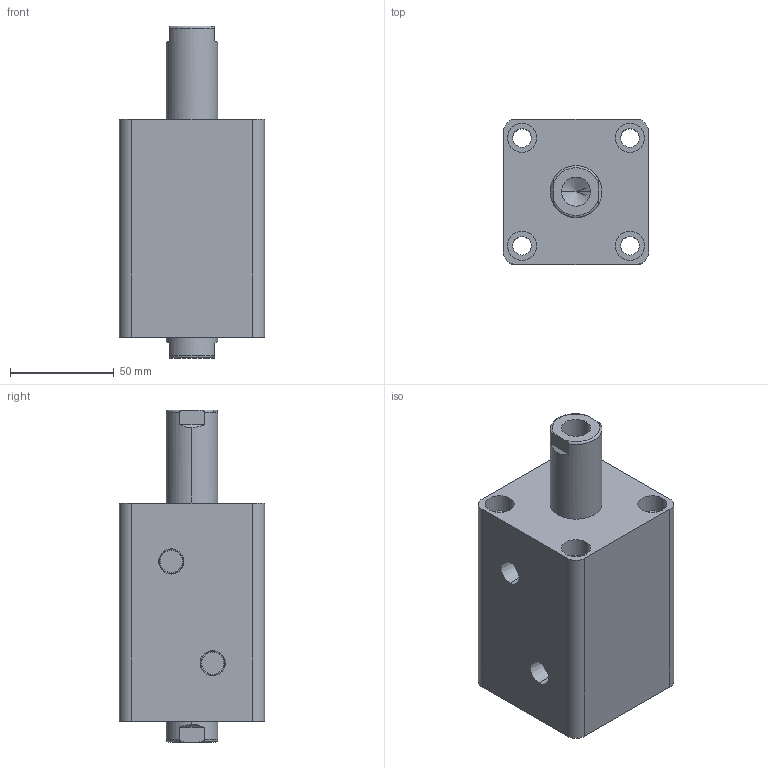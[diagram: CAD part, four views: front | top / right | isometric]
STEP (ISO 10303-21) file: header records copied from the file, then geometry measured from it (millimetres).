
FILE_DESCRIPTION (( 'STEP AP203' ), '1' );
FILE_NAME ('HTB-SW40-35N.STEP', '2019-10-07T09:07:09', ( '微软用户' ), ( '微软中国' ), 'SwSTEP 2.0', 'SolidWorks 2012', '' );
FILE_SCHEMA (( 'CONFIG_CONTROL_DESIGN' ));
Length unit declared in the file: millimetre
Products named in the file (3): HTB-SW40-35N; HTB-SW40-35N活塞杆; HTB-SW40-35掛极
Assembly tree (2 placements, depth 2):
  HTB-SW40-35N
    HTB-SW40-35掛极
    HTB-SW40-35N活塞杆
Bounding box: 70 x 70 x 160 mm (x, y, z)
Volume: 469845 mm3; surface area: 79784.1 mm2
Topology: 2 solids, 2 shells, 100 faces, 228 edges, 146 vertices
Faces by surface type: cylinder 48, plane 32, torus 12, cone 8
Entity records: 3237 total; most frequent: CARTESIAN_POINT 595, DIRECTION 542, ORIENTED_EDGE 448, AXIS2_PLACEMENT_3D 229, EDGE_CURVE 224, VERTEX_POINT 146, EDGE_LOOP 128, CIRCLE 124
